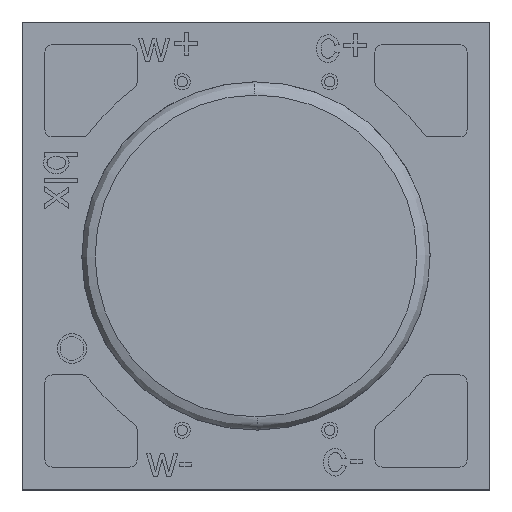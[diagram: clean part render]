
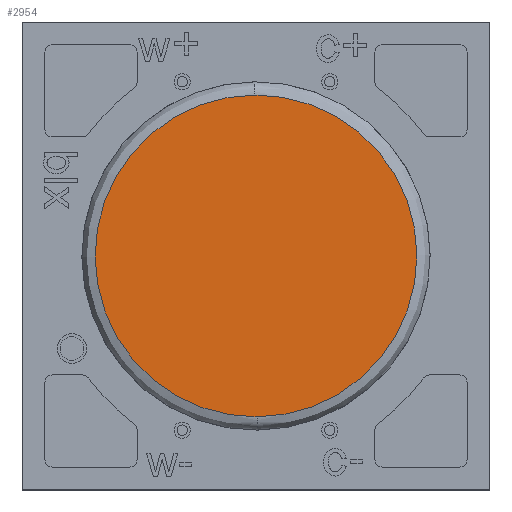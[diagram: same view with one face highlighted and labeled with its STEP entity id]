
A CAD part, top view. The second image highlights one B-rep face of the part: STEP entity #2954.
In plain terms, the highlighted planar face has unit normal (0, 0, 1).
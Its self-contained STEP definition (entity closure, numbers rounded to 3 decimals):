
#215 = CARTESIAN_POINT ( 'NONE',  ( -1.21, -5.425, 16.95 ) ) ;
#883 = DIRECTION ( 'NONE',  ( -0.007, 1., 0. ) ) ;
#1674 = CARTESIAN_POINT ( 'NONE',  ( -1.236, -1.6, 16.95 ) ) ;
#1768 = ORIENTED_EDGE ( 'NONE', *, *, #8332, .T. ) ;
#2315 = FACE_OUTER_BOUND ( 'NONE', #3349, .T. ) ;
#2325 = DIRECTION ( 'NONE',  ( 0.007, -1., 0. ) ) ;
#2331 = AXIS2_PLACEMENT_3D ( 'NONE', #215, #4969, #883 ) ;
#2954 = ADVANCED_FACE ( 'NONE', ( #2315 ), #3547, .F. ) ;
#3349 = EDGE_LOOP ( 'NONE', ( #1768, #5338 ) ) ;
#3547 = PLANE ( 'NONE',  #2331 ) ;
#3797 = DIRECTION ( 'NONE',  ( 0., 0., 1. ) ) ;
#4005 = AXIS2_PLACEMENT_3D ( 'NONE', #1674, #6418, #2325 ) ;
#4532 = VERTEX_POINT ( 'NONE', #7359 ) ;
#4722 = CIRCLE ( 'NONE', #4005, 5.45 ) ;
#4969 = DIRECTION ( 'NONE',  ( 0., 0., -1. ) ) ;
#5338 = ORIENTED_EDGE ( 'NONE', *, *, #8498, .T. ) ;
#5422 = AXIS2_PLACEMENT_3D ( 'NONE', #7855, #3797, #8508 ) ;
#6025 = VERTEX_POINT ( 'NONE', #8047 ) ;
#6418 = DIRECTION ( 'NONE',  ( 0., 0., 1. ) ) ;
#7359 = CARTESIAN_POINT ( 'NONE',  ( -1.273, 3.85, 16.95 ) ) ;
#7665 = CIRCLE ( 'NONE', #5422, 5.45 ) ;
#7855 = CARTESIAN_POINT ( 'NONE',  ( -1.236, -1.6, 16.95 ) ) ;
#8047 = CARTESIAN_POINT ( 'NONE',  ( -1.199, -7.05, 16.95 ) ) ;
#8332 = EDGE_CURVE ( 'NONE', #6025, #4532, #4722, .T. ) ;
#8498 = EDGE_CURVE ( 'NONE', #4532, #6025, #7665, .T. ) ;
#8508 = DIRECTION ( 'NONE',  ( 0.007, -1., 0. ) ) ;
